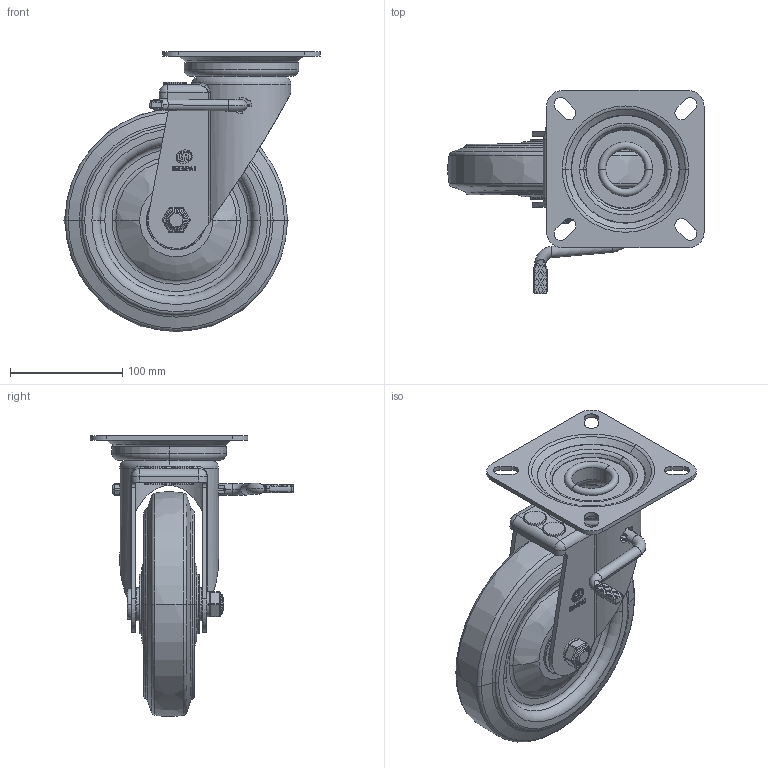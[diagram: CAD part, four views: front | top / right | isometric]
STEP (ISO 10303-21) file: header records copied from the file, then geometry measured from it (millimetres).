
FILE_DESCRIPTION(/* description */ (''),/* implementation_level */ '2;1');
FILE_NAME(/* name */ '25A38_8_F.stp',/* time_stamp */ '2022-08-27T13:42:51+08:00',/* author */ (''),/* organization */ (''),/* preprocessor_version */ 'ST-DEVELOPER v14',/* originating_system */ 'SIEMENS PLM Software NX 8.0',/* authorisation */ '');
FILE_SCHEMA (('AUTOMOTIVE_DESIGN { 1 0 10303 214 3 1 1 1 }'));
Length unit declared in the file: millimetre
Products named in the file (1): 25A38_8_F
Bounding box: 227.87 x 180.62 x 249.9 mm (x, y, z)
Volume: 791979.4 mm3; surface area: 319090.4 mm2
Topology: 1 solids, 4 shells, 1040 faces, 2766 edges, 1720 vertices
Faces by surface type: plane 504, cylinder 193, torus 160, sphere 116, cone 40, bspline 26, extrusion 1
Full cylindrical faces by diameter (mm): 14 x1
Entity records: 35300 total; most frequent: CARTESIAN_POINT 10351, ORIENTED_EDGE 5334, DIRECTION 5120, EDGE_CURVE 2667, AXIS2_PLACEMENT_3D 2071, VERTEX_POINT 1721, EDGE_LOOP 1152, ADVANCED_FACE 1040
